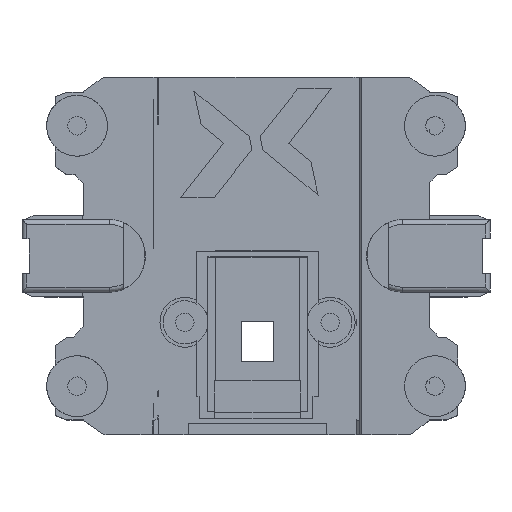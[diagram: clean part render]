
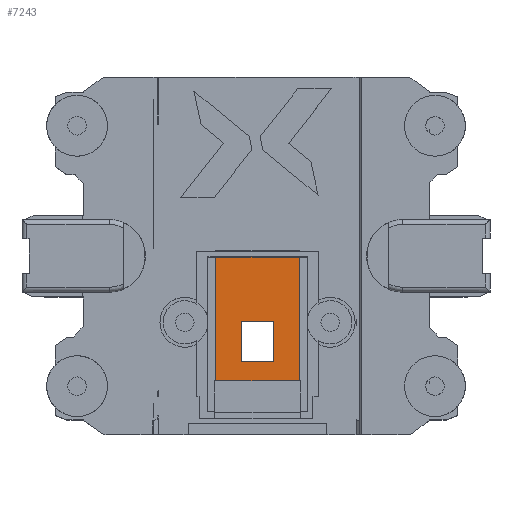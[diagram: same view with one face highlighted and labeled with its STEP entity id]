
A CAD part, top view. The second image highlights one B-rep face of the part: STEP entity #7243.
In plain terms, the highlighted planar face has unit normal (0, 0, 1).
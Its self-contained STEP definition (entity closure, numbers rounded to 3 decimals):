
#7074 = PLANE('',#7075);
#7075 = AXIS2_PLACEMENT_3D('',#7076,#7077,#7078);
#7076 = CARTESIAN_POINT('',(-1.358,-9.716,1.7));
#7077 = DIRECTION('',(1.,0.,-0.));
#7078 = DIRECTION('',(0.,0.,1.));
#7102 = PLANE('',#7103);
#7103 = AXIS2_PLACEMENT_3D('',#7104,#7105,#7106);
#7104 = CARTESIAN_POINT('',(-1.358,-6.016,1.7));
#7105 = DIRECTION('',(-0.,1.,0.));
#7106 = DIRECTION('',(0.,0.,1.));
#7130 = PLANE('',#7131);
#7131 = AXIS2_PLACEMENT_3D('',#7132,#7133,#7134);
#7132 = CARTESIAN_POINT('',(1.642,-9.716,1.7));
#7133 = DIRECTION('',(1.,0.,-0.));
#7134 = DIRECTION('',(0.,0.,1.));
#7156 = PLANE('',#7157);
#7157 = AXIS2_PLACEMENT_3D('',#7158,#7159,#7160);
#7158 = CARTESIAN_POINT('',(-1.358,-9.716,1.7));
#7159 = DIRECTION('',(-0.,1.,0.));
#7160 = DIRECTION('',(0.,0.,1.));
#7172 = VERTEX_POINT('',#7173);
#7173 = CARTESIAN_POINT('',(1.642,-9.716,2.));
#7196 = VERTEX_POINT('',#7197);
#7197 = CARTESIAN_POINT('',(-1.358,-9.716,2.));
#7218 = EDGE_CURVE('',#7172,#7196,#7219,.T.);
#7219 = SURFACE_CURVE('',#7220,(#7224,#7231),.PCURVE_S1.);
#7220 = LINE('',#7221,#7222);
#7221 = CARTESIAN_POINT('',(-2.533,-9.716,2.));
#7222 = VECTOR('',#7223,1.);
#7223 = DIRECTION('',(-1.,-0.,0.));
#7224 = PCURVE('',#7156,#7225);
#7225 = DEFINITIONAL_REPRESENTATION('',(#7226),#7230);
#7226 = LINE('',#7227,#7228);
#7227 = CARTESIAN_POINT('',(0.3,-1.175));
#7228 = VECTOR('',#7229,1.);
#7229 = DIRECTION('',(0.,-1.));
#7230 = ( GEOMETRIC_REPRESENTATION_CONTEXT(2) 
PARAMETRIC_REPRESENTATION_CONTEXT() REPRESENTATION_CONTEXT('2D SPACE',''
  ) );
#7231 = PCURVE('',#7232,#7237);
#7232 = PLANE('',#7233);
#7233 = AXIS2_PLACEMENT_3D('',#7234,#7235,#7236);
#7234 = CARTESIAN_POINT('',(-3.708,-14.316,2.));
#7235 = DIRECTION('',(0.,0.,1.));
#7236 = DIRECTION('',(1.,0.,-0.));
#7237 = DEFINITIONAL_REPRESENTATION('',(#7238),#7242);
#7238 = LINE('',#7239,#7240);
#7239 = CARTESIAN_POINT('',(1.175,4.6));
#7240 = VECTOR('',#7241,1.);
#7241 = DIRECTION('',(-1.,0.));
#7242 = ( GEOMETRIC_REPRESENTATION_CONTEXT(2) 
PARAMETRIC_REPRESENTATION_CONTEXT() REPRESENTATION_CONTEXT('2D SPACE',''
  ) );
#7243 = ADVANCED_FACE('',(#7244,#7358),#7232,.T.);
#7244 = FACE_BOUND('',#7245,.T.);
#7245 = EDGE_LOOP('',(#7246,#7276,#7304,#7332));
#7246 = ORIENTED_EDGE('',*,*,#7247,.F.);
#7247 = EDGE_CURVE('',#7248,#7250,#7252,.T.);
#7248 = VERTEX_POINT('',#7249);
#7249 = CARTESIAN_POINT('',(-3.708,-11.496,2.));
#7250 = VERTEX_POINT('',#7251);
#7251 = CARTESIAN_POINT('',(-3.708,0.484,2.));
#7252 = SURFACE_CURVE('',#7253,(#7257,#7264),.PCURVE_S1.);
#7253 = LINE('',#7254,#7255);
#7254 = CARTESIAN_POINT('',(-3.708,-14.316,2.));
#7255 = VECTOR('',#7256,1.);
#7256 = DIRECTION('',(-0.,1.,0.));
#7257 = PCURVE('',#7232,#7258);
#7258 = DEFINITIONAL_REPRESENTATION('',(#7259),#7263);
#7259 = LINE('',#7260,#7261);
#7260 = CARTESIAN_POINT('',(0.,0.));
#7261 = VECTOR('',#7262,1.);
#7262 = DIRECTION('',(0.,1.));
#7263 = ( GEOMETRIC_REPRESENTATION_CONTEXT(2) 
PARAMETRIC_REPRESENTATION_CONTEXT() REPRESENTATION_CONTEXT('2D SPACE',''
  ) );
#7264 = PCURVE('',#7265,#7270);
#7265 = PLANE('',#7266);
#7266 = AXIS2_PLACEMENT_3D('',#7267,#7268,#7269);
#7267 = CARTESIAN_POINT('',(-3.708,0.384,3.9));
#7268 = DIRECTION('',(-1.,-0.,0.));
#7269 = DIRECTION('',(-0.,1.,0.));
#7270 = DEFINITIONAL_REPRESENTATION('',(#7271),#7275);
#7271 = LINE('',#7272,#7273);
#7272 = CARTESIAN_POINT('',(-14.7,1.9));
#7273 = VECTOR('',#7274,1.);
#7274 = DIRECTION('',(1.,0.));
#7275 = ( GEOMETRIC_REPRESENTATION_CONTEXT(2) 
PARAMETRIC_REPRESENTATION_CONTEXT() REPRESENTATION_CONTEXT('2D SPACE',''
  ) );
#7276 = ORIENTED_EDGE('',*,*,#7277,.F.);
#7277 = EDGE_CURVE('',#7278,#7248,#7280,.T.);
#7278 = VERTEX_POINT('',#7279);
#7279 = CARTESIAN_POINT('',(3.992,-11.496,2.));
#7280 = SURFACE_CURVE('',#7281,(#7285,#7292),.PCURVE_S1.);
#7281 = LINE('',#7282,#7283);
#7282 = CARTESIAN_POINT('',(-3.758,-11.496,2.));
#7283 = VECTOR('',#7284,1.);
#7284 = DIRECTION('',(-1.,-0.,0.));
#7285 = PCURVE('',#7232,#7286);
#7286 = DEFINITIONAL_REPRESENTATION('',(#7287),#7291);
#7287 = LINE('',#7288,#7289);
#7288 = CARTESIAN_POINT('',(-0.05,2.82));
#7289 = VECTOR('',#7290,1.);
#7290 = DIRECTION('',(-1.,0.));
#7291 = ( GEOMETRIC_REPRESENTATION_CONTEXT(2) 
PARAMETRIC_REPRESENTATION_CONTEXT() REPRESENTATION_CONTEXT('2D SPACE',''
  ) );
#7292 = PCURVE('',#7293,#7298);
#7293 = PLANE('',#7294);
#7294 = AXIS2_PLACEMENT_3D('',#7295,#7296,#7297);
#7295 = CARTESIAN_POINT('',(-3.808,-11.496,1.7));
#7296 = DIRECTION('',(-0.,1.,0.));
#7297 = DIRECTION('',(0.,0.,1.));
#7298 = DEFINITIONAL_REPRESENTATION('',(#7299),#7303);
#7299 = LINE('',#7300,#7301);
#7300 = CARTESIAN_POINT('',(0.3,0.05));
#7301 = VECTOR('',#7302,1.);
#7302 = DIRECTION('',(0.,-1.));
#7303 = ( GEOMETRIC_REPRESENTATION_CONTEXT(2) 
PARAMETRIC_REPRESENTATION_CONTEXT() REPRESENTATION_CONTEXT('2D SPACE',''
  ) );
#7304 = ORIENTED_EDGE('',*,*,#7305,.T.);
#7305 = EDGE_CURVE('',#7278,#7306,#7308,.T.);
#7306 = VERTEX_POINT('',#7307);
#7307 = CARTESIAN_POINT('',(3.992,0.484,2.));
#7308 = SURFACE_CURVE('',#7309,(#7313,#7320),.PCURVE_S1.);
#7309 = LINE('',#7310,#7311);
#7310 = CARTESIAN_POINT('',(3.992,-14.316,2.));
#7311 = VECTOR('',#7312,1.);
#7312 = DIRECTION('',(-0.,1.,0.));
#7313 = PCURVE('',#7232,#7314);
#7314 = DEFINITIONAL_REPRESENTATION('',(#7315),#7319);
#7315 = LINE('',#7316,#7317);
#7316 = CARTESIAN_POINT('',(7.7,0.));
#7317 = VECTOR('',#7318,1.);
#7318 = DIRECTION('',(0.,1.));
#7319 = ( GEOMETRIC_REPRESENTATION_CONTEXT(2) 
PARAMETRIC_REPRESENTATION_CONTEXT() REPRESENTATION_CONTEXT('2D SPACE',''
  ) );
#7320 = PCURVE('',#7321,#7326);
#7321 = PLANE('',#7322);
#7322 = AXIS2_PLACEMENT_3D('',#7323,#7324,#7325);
#7323 = CARTESIAN_POINT('',(3.992,0.384,3.9));
#7324 = DIRECTION('',(-1.,-0.,0.));
#7325 = DIRECTION('',(-0.,1.,0.));
#7326 = DEFINITIONAL_REPRESENTATION('',(#7327),#7331);
#7327 = LINE('',#7328,#7329);
#7328 = CARTESIAN_POINT('',(-14.7,1.9));
#7329 = VECTOR('',#7330,1.);
#7330 = DIRECTION('',(1.,0.));
#7331 = ( GEOMETRIC_REPRESENTATION_CONTEXT(2) 
PARAMETRIC_REPRESENTATION_CONTEXT() REPRESENTATION_CONTEXT('2D SPACE',''
  ) );
#7332 = ORIENTED_EDGE('',*,*,#7333,.F.);
#7333 = EDGE_CURVE('',#7250,#7306,#7334,.T.);
#7334 = SURFACE_CURVE('',#7335,(#7339,#7346),.PCURVE_S1.);
#7335 = LINE('',#7336,#7337);
#7336 = CARTESIAN_POINT('',(-3.708,0.484,2.));
#7337 = VECTOR('',#7338,1.);
#7338 = DIRECTION('',(1.,0.,-0.));
#7339 = PCURVE('',#7232,#7340);
#7340 = DEFINITIONAL_REPRESENTATION('',(#7341),#7345);
#7341 = LINE('',#7342,#7343);
#7342 = CARTESIAN_POINT('',(0.,14.8));
#7343 = VECTOR('',#7344,1.);
#7344 = DIRECTION('',(1.,0.));
#7345 = ( GEOMETRIC_REPRESENTATION_CONTEXT(2) 
PARAMETRIC_REPRESENTATION_CONTEXT() REPRESENTATION_CONTEXT('2D SPACE',''
  ) );
#7346 = PCURVE('',#7347,#7352);
#7347 = PLANE('',#7348);
#7348 = AXIS2_PLACEMENT_3D('',#7349,#7350,#7351);
#7349 = CARTESIAN_POINT('',(3.992,0.484,3.9));
#7350 = DIRECTION('',(0.,-1.,0.));
#7351 = DIRECTION('',(-1.,0.,0.));
#7352 = DEFINITIONAL_REPRESENTATION('',(#7353),#7357);
#7353 = LINE('',#7354,#7355);
#7354 = CARTESIAN_POINT('',(7.7,1.9));
#7355 = VECTOR('',#7356,1.);
#7356 = DIRECTION('',(-1.,0.));
#7357 = ( GEOMETRIC_REPRESENTATION_CONTEXT(2) 
PARAMETRIC_REPRESENTATION_CONTEXT() REPRESENTATION_CONTEXT('2D SPACE',''
  ) );
#7358 = FACE_BOUND('',#7359,.T.);
#7359 = EDGE_LOOP('',(#7360,#7361,#7384,#7407));
#7360 = ORIENTED_EDGE('',*,*,#7218,.T.);
#7361 = ORIENTED_EDGE('',*,*,#7362,.T.);
#7362 = EDGE_CURVE('',#7196,#7363,#7365,.T.);
#7363 = VERTEX_POINT('',#7364);
#7364 = CARTESIAN_POINT('',(-1.358,-6.016,2.));
#7365 = SURFACE_CURVE('',#7366,(#7370,#7377),.PCURVE_S1.);
#7366 = LINE('',#7367,#7368);
#7367 = CARTESIAN_POINT('',(-1.358,-12.016,2.));
#7368 = VECTOR('',#7369,1.);
#7369 = DIRECTION('',(-0.,1.,0.));
#7370 = PCURVE('',#7232,#7371);
#7371 = DEFINITIONAL_REPRESENTATION('',(#7372),#7376);
#7372 = LINE('',#7373,#7374);
#7373 = CARTESIAN_POINT('',(2.35,2.3));
#7374 = VECTOR('',#7375,1.);
#7375 = DIRECTION('',(0.,1.));
#7376 = ( GEOMETRIC_REPRESENTATION_CONTEXT(2) 
PARAMETRIC_REPRESENTATION_CONTEXT() REPRESENTATION_CONTEXT('2D SPACE',''
  ) );
#7377 = PCURVE('',#7074,#7378);
#7378 = DEFINITIONAL_REPRESENTATION('',(#7379),#7383);
#7379 = LINE('',#7380,#7381);
#7380 = CARTESIAN_POINT('',(0.3,2.3));
#7381 = VECTOR('',#7382,1.);
#7382 = DIRECTION('',(0.,-1.));
#7383 = ( GEOMETRIC_REPRESENTATION_CONTEXT(2) 
PARAMETRIC_REPRESENTATION_CONTEXT() REPRESENTATION_CONTEXT('2D SPACE',''
  ) );
#7384 = ORIENTED_EDGE('',*,*,#7385,.F.);
#7385 = EDGE_CURVE('',#7386,#7363,#7388,.T.);
#7386 = VERTEX_POINT('',#7387);
#7387 = CARTESIAN_POINT('',(1.642,-6.016,2.));
#7388 = SURFACE_CURVE('',#7389,(#7393,#7400),.PCURVE_S1.);
#7389 = LINE('',#7390,#7391);
#7390 = CARTESIAN_POINT('',(-2.533,-6.016,2.));
#7391 = VECTOR('',#7392,1.);
#7392 = DIRECTION('',(-1.,-0.,0.));
#7393 = PCURVE('',#7232,#7394);
#7394 = DEFINITIONAL_REPRESENTATION('',(#7395),#7399);
#7395 = LINE('',#7396,#7397);
#7396 = CARTESIAN_POINT('',(1.175,8.3));
#7397 = VECTOR('',#7398,1.);
#7398 = DIRECTION('',(-1.,0.));
#7399 = ( GEOMETRIC_REPRESENTATION_CONTEXT(2) 
PARAMETRIC_REPRESENTATION_CONTEXT() REPRESENTATION_CONTEXT('2D SPACE',''
  ) );
#7400 = PCURVE('',#7102,#7401);
#7401 = DEFINITIONAL_REPRESENTATION('',(#7402),#7406);
#7402 = LINE('',#7403,#7404);
#7403 = CARTESIAN_POINT('',(0.3,-1.175));
#7404 = VECTOR('',#7405,1.);
#7405 = DIRECTION('',(0.,-1.));
#7406 = ( GEOMETRIC_REPRESENTATION_CONTEXT(2) 
PARAMETRIC_REPRESENTATION_CONTEXT() REPRESENTATION_CONTEXT('2D SPACE',''
  ) );
#7407 = ORIENTED_EDGE('',*,*,#7408,.F.);
#7408 = EDGE_CURVE('',#7172,#7386,#7409,.T.);
#7409 = SURFACE_CURVE('',#7410,(#7414,#7421),.PCURVE_S1.);
#7410 = LINE('',#7411,#7412);
#7411 = CARTESIAN_POINT('',(1.642,-12.016,2.));
#7412 = VECTOR('',#7413,1.);
#7413 = DIRECTION('',(-0.,1.,0.));
#7414 = PCURVE('',#7232,#7415);
#7415 = DEFINITIONAL_REPRESENTATION('',(#7416),#7420);
#7416 = LINE('',#7417,#7418);
#7417 = CARTESIAN_POINT('',(5.35,2.3));
#7418 = VECTOR('',#7419,1.);
#7419 = DIRECTION('',(0.,1.));
#7420 = ( GEOMETRIC_REPRESENTATION_CONTEXT(2) 
PARAMETRIC_REPRESENTATION_CONTEXT() REPRESENTATION_CONTEXT('2D SPACE',''
  ) );
#7421 = PCURVE('',#7130,#7422);
#7422 = DEFINITIONAL_REPRESENTATION('',(#7423),#7427);
#7423 = LINE('',#7424,#7425);
#7424 = CARTESIAN_POINT('',(0.3,2.3));
#7425 = VECTOR('',#7426,1.);
#7426 = DIRECTION('',(0.,-1.));
#7427 = ( GEOMETRIC_REPRESENTATION_CONTEXT(2) 
PARAMETRIC_REPRESENTATION_CONTEXT() REPRESENTATION_CONTEXT('2D SPACE',''
  ) );
